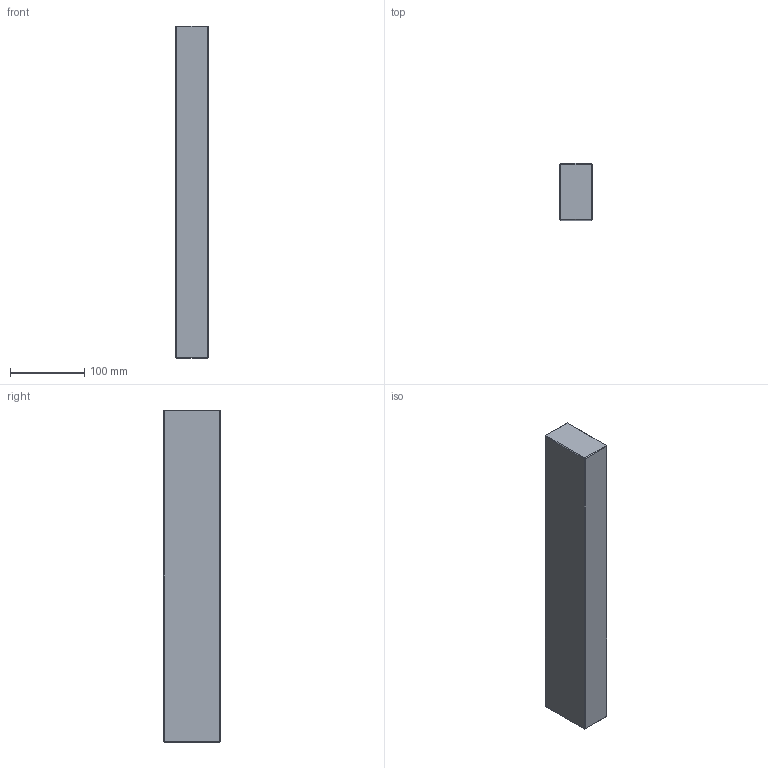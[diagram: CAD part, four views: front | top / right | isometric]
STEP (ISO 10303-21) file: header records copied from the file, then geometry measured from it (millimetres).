
FILE_DESCRIPTION (( 'STEP AP214' ), '1' );
FILE_NAME ('ESP-P-296X446x76.STEP', '2020-04-08T10:53:45', ( 'August' ), ( '' ), 'SwSTEP 2.0', 'SolidWorks 2018', '' );
FILE_SCHEMA (( 'AUTOMOTIVE_DESIGN' ));
Length unit declared in the file: millimetre
Products named in the file (1): ESP-P-296X446x76
Bounding box: 43 x 76 x 446 mm (x, y, z)
Volume: 1456403.3 mm3; surface area: 111357.1 mm2
Topology: 1 solids, 1 shells, 26 faces, 48 edges, 24 vertices
Faces by surface type: plane 26
Entity records: 634 total; most frequent: DIRECTION 102, CARTESIAN_POINT 99, ORIENTED_EDGE 96, VECTOR 48, LINE 48, EDGE_CURVE 48, AXIS2_PLACEMENT_3D 27, EDGE_LOOP 26
